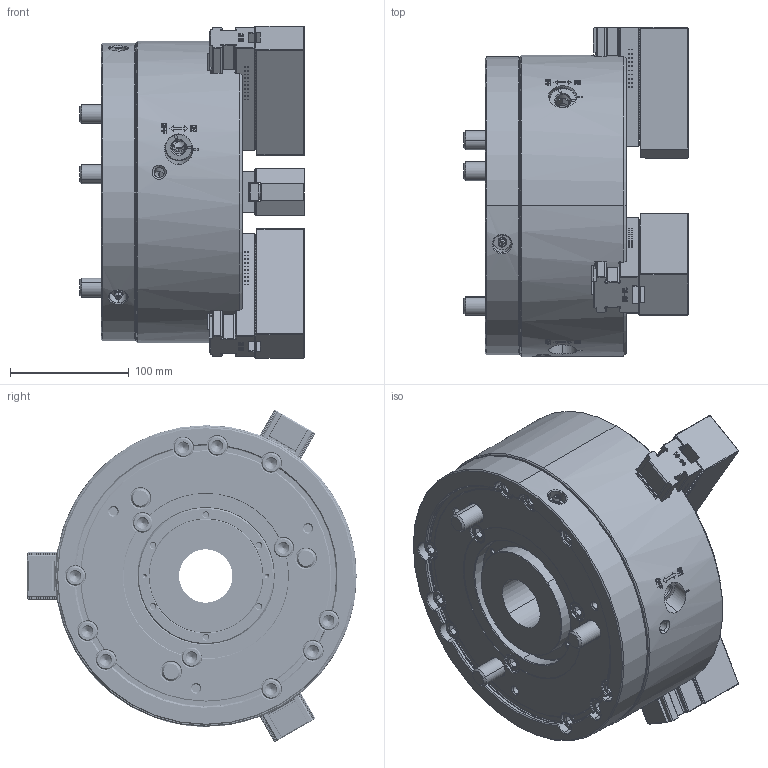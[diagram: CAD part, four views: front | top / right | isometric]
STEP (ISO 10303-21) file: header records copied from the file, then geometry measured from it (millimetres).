
FILE_DESCRIPTION (( 'STEP AP214' ), '1' );
FILE_NAME ('QJR10_61P261582-4_HCL.STEP', '2026-03-12T06:14:06', ( '' ), ( '' ), 'SwSTEP 2.0', 'SolidWorks 2022', '' );
FILE_SCHEMA (( 'AUTOMOTIVE_DESIGN' ));
Length unit declared in the file: millimetre
Products named in the file (7): DT1_QJR10_M16x120^DT1_QJR10; Copy of 0030112035^DT1_QJR10; DT1_QJR10_DRAWNUT^DT1_QJR10; DT1_QJR10_SOFTJAW^DT1_QJR10; DT1_QJR10_BASEJAW^DT1_QJR10; QJR10_61P261582-4_HCL; DT1_QJR10_BASE^DT1_QJR10
Assembly tree (17 placements, depth 2):
  QJR10_61P261582-4_HCL
    DT1_QJR10_DRAWNUT^DT1_QJR10
    DT1_QJR10_SOFTJAW^DT1_QJR10  x3
    DT1_QJR10_M16x120^DT1_QJR10  x3
    DT1_QJR10_BASEJAW^DT1_QJR10  x3
    DT1_QJR10_BASE^DT1_QJR10
    Copy of 0030112035^DT1_QJR10  x6
Bounding box: 189.3 x 277.27 x 279.68 mm (x, y, z)
Volume: 5837893.4 mm3; surface area: 532393.6 mm2
Topology: 17 solids, 71 shells, 8463 faces, 23332 edges, 15294 vertices
Faces by surface type: plane 5476, cylinder 1175, bspline 1075, cone 662, torus 63, sphere 12
Entity records: 226803 total; most frequent: CARTESIAN_POINT 100111, ORIENTED_EDGE 28704, DIRECTION 21702, EDGE_CURVE 14352, VERTEX_POINT 9445, VECTOR 9304, LINE 9304, AXIS2_PLACEMENT_3D 6199
